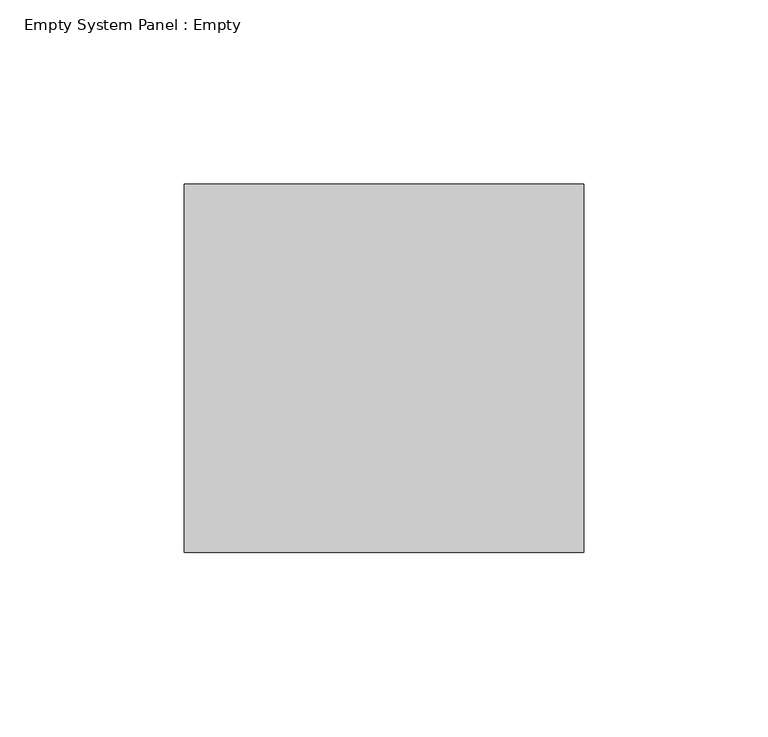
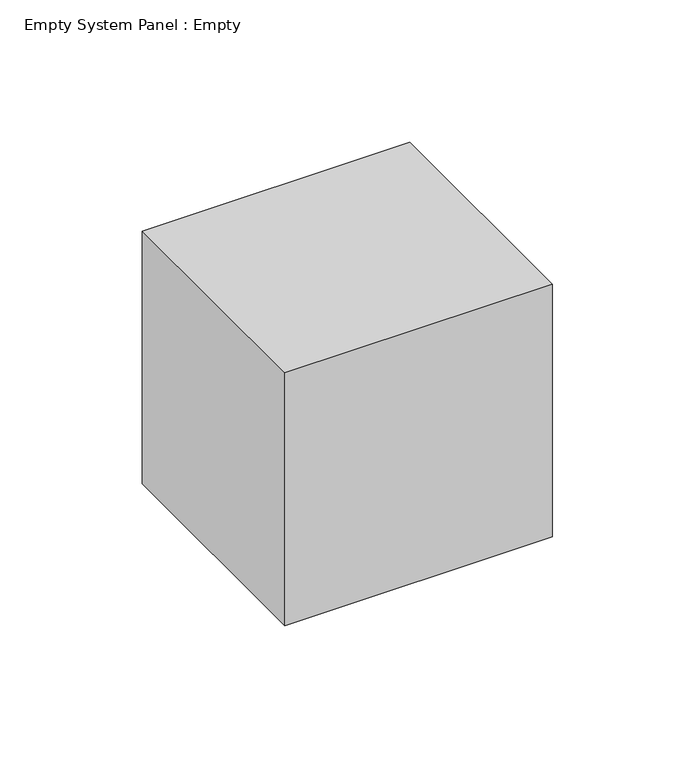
"""IFC4 building model written with IfcOpenShell, lengths in millimetres: plate geometry, Empty System Panel : Empty."""

from ifc_helpers import new_model, si_unit, origin, origin_with_axes, place, context, project, spatial, polyline, outline, extrude, source, transform, mapped, element, save


def empty_system_panel_empty_abd50de3(model_context):
    return source(origin(), model_context, "Body", "SweptSolid", [
        extrude(outline(polyline([(54.1878051, 50.0), (-54.1878051, 50.0), (-54.1878051, 150.0), (54.1878051, 150.0), (54.1878051, 50.0)])), origin_with_axes(), (0.0, 0.0, 1.0), 108.37561),
    ])


if __name__ == "__main__":
    model = new_model("IFC4")
    model_context = context("Model", 3, world=origin())
    ifc_project = project(units=[si_unit("LENGTHUNIT", "METRE", prefix="MILLI")], contexts=[model_context])
    site = spatial("IfcSite", under=ifc_project)
    building = spatial("IfcBuilding", under=site)
    placement = place(None, origin())
    empty_system_panel_empty_shape = empty_system_panel_empty_abd50de3(model_context)
    element("IfcPlate", 1, ObjectType="Empty System Panel : Empty", at=placement, inside=building, context=model_context, shape_type="MappedRepresentation", body=[
        mapped(empty_system_panel_empty_shape, transform((0.0, 0.0, 0.0), x_axis=(1.0, 0.0, 0.0), y_axis=(0.0, 1.0, 0.0), z_axis=(0.0, 0.0, 1.0))),
    ])
    save(model, "model.ifc")
